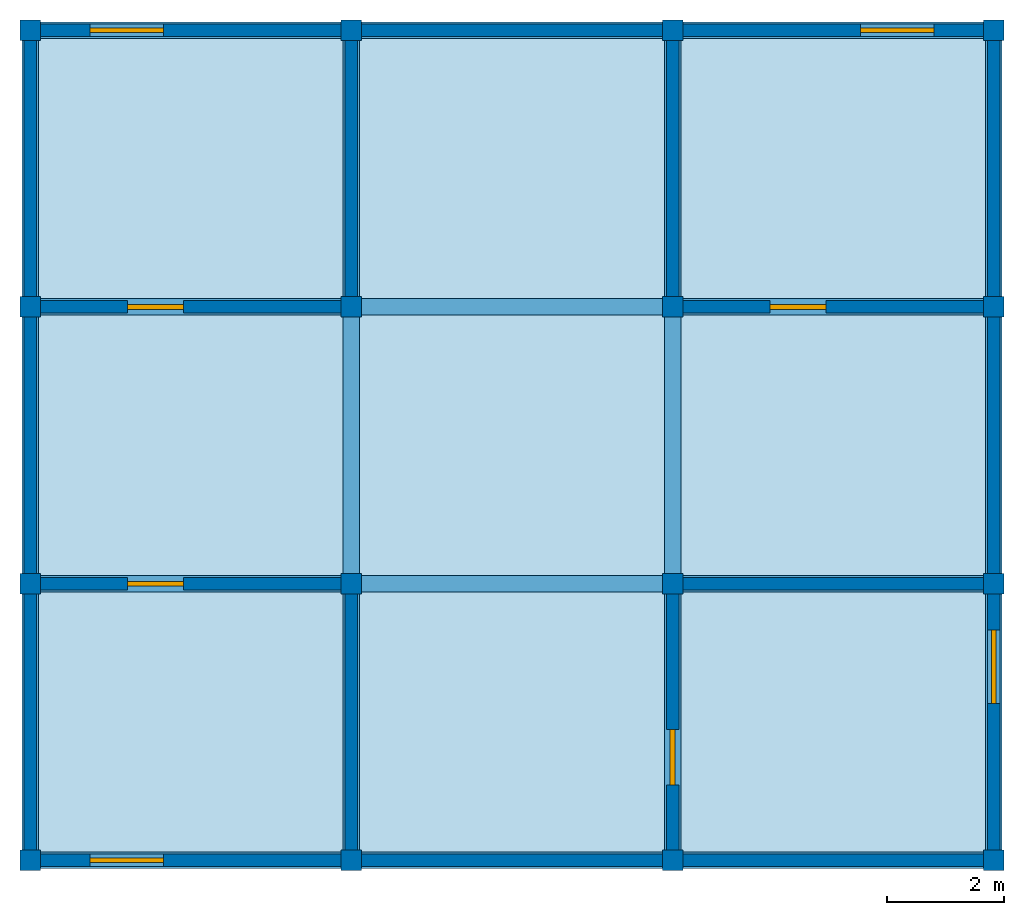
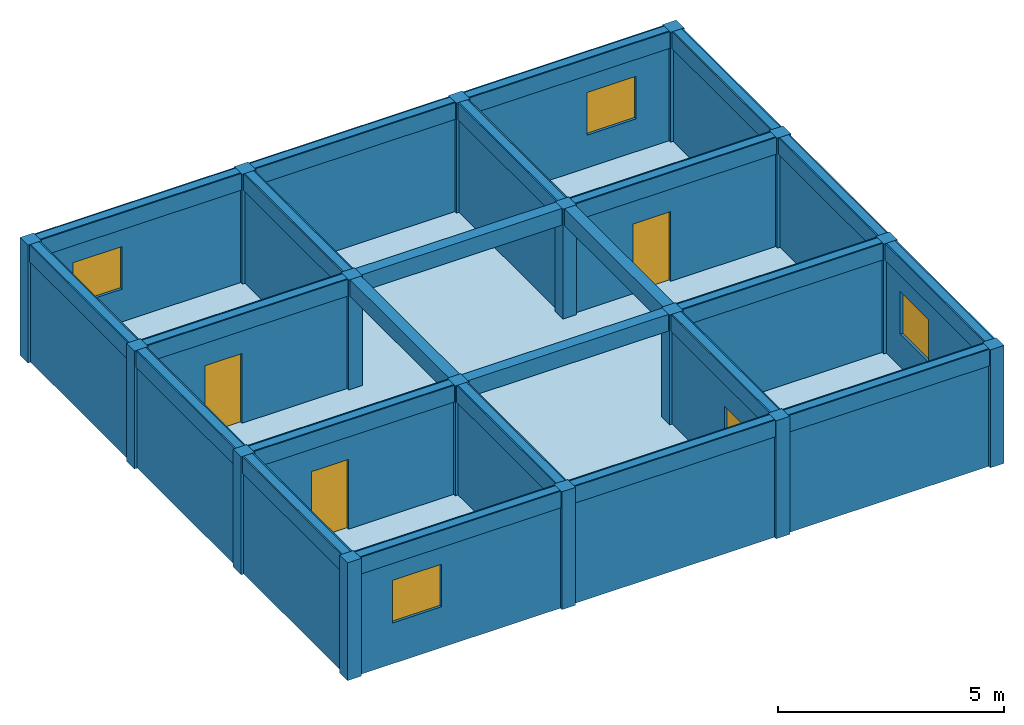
# One storey: 24 beams, 20 walls, 16 columns, 4 doors, 4 windows, 1 slab, 8 openings.
"""IFC4X3 building model written with IfcOpenShell, lengths in metres."""

from ifc_helpers import new_model, si_unit, frame, origin_with_axes, origin_2d, place, context, project, spatial, rectangle, extrude, material, element, fill, save


model = new_model("IFC4X3")

# Units and contexts
model_context = context("Model", 3, precision=1e-05, world=origin_with_axes())
ifc_project = project(units=[si_unit("LENGTHUNIT", "METRE"), si_unit("AREAUNIT", "SQUARE_METRE"), si_unit("VOLUMEUNIT", "CUBIC_METRE")], contexts=[model_context])

# Site, building, storey
site = spatial("IfcSite", under=ifc_project, Name="Antofagasta Parcel", CompositionType="ELEMENT")
building = spatial("IfcBuilding", under=site, Name="Nexo Block", CompositionType="ELEMENT")
storey = spatial("IfcBuildingStorey", under=building, Name="Level 4", CompositionType="ELEMENT", Elevation=9.54)

# Columns
ifc_material_1 = material(Name="Concrete")
column_1_placement = place(None, frame((-8.2, -7.065, 9.542), z_axis=(0.0, 0.0, 1.0), x_axis=(1.0, 0.0, 0.0)))
element("IfcColumn", 1, at=column_1_placement, inside=storey, material=ifc_material_1, Name="Column 4.1", ObjectType="Facade Column", PredefinedType="PILASTER", context=model_context, shape_type="SweptSolid", body=[
    extrude(rectangle(XDim=0.35, YDim=0.35, at=origin_2d()), origin_with_axes(), (0.0, 0.0, 1.0), 3.181),
])
column_2_placement = place(None, frame((-8.2, -2.355, 9.542), z_axis=(0.0, 0.0, 1.0), x_axis=(1.0, 0.0, 0.0)))
element("IfcColumn", 2, at=column_2_placement, inside=storey, material=ifc_material_1, Name="Column 4.2", ObjectType="Corner Column", PredefinedType="NOTDEFINED", context=model_context, shape_type="SweptSolid", body=[
    extrude(rectangle(XDim=0.35, YDim=0.35, at=origin_2d()), origin_with_axes(), (0.0, 0.0, 1.0), 3.181),
])
column_3_placement = place(None, frame((-8.2, 2.355, 9.542), z_axis=(0.0, 0.0, 1.0), x_axis=(1.0, 0.0, 0.0)))
element("IfcColumn", 3, at=column_3_placement, inside=storey, material=ifc_material_1, Name="Column 4.3", ObjectType="Structural Column", PredefinedType="COLUMN", context=model_context, shape_type="SweptSolid", body=[
    extrude(rectangle(XDim=0.35, YDim=0.35, at=origin_2d()), origin_with_axes(), (0.0, 0.0, 1.0), 3.181),
])
column_4_placement = place(None, frame((-8.2, 7.065, 9.542), z_axis=(0.0, 0.0, 1.0), x_axis=(1.0, 0.0, 0.0)))
element("IfcColumn", 4, at=column_4_placement, inside=storey, material=ifc_material_1, Name="Column 4.4", ObjectType="Facade Column", PredefinedType="PILASTER", context=model_context, shape_type="SweptSolid", body=[
    extrude(rectangle(XDim=0.35, YDim=0.35, at=origin_2d()), origin_with_axes(), (0.0, 0.0, 1.0), 3.181),
])
column_5_placement = place(None, frame((-2.733, -7.065, 9.542), z_axis=(0.0, 0.0, 1.0), x_axis=(1.0, 0.0, 0.0)))
element("IfcColumn", 5, at=column_5_placement, inside=storey, material=ifc_material_1, Name="Column 4.5", ObjectType="Facade Column", PredefinedType="COLUMN", context=model_context, shape_type="SweptSolid", body=[
    extrude(rectangle(XDim=0.35, YDim=0.35, at=origin_2d()), origin_with_axes(), (0.0, 0.0, 1.0), 3.181),
])
column_6_placement = place(None, frame((-2.733, -2.355, 9.542), z_axis=(0.0, 0.0, 1.0), x_axis=(1.0, 0.0, 0.0)))
element("IfcColumn", 6, at=column_6_placement, inside=storey, material=ifc_material_1, Name="Column 4.6", ObjectType="Structural Column", PredefinedType="COLUMN", context=model_context, shape_type="SweptSolid", body=[
    extrude(rectangle(XDim=0.35, YDim=0.35, at=origin_2d()), origin_with_axes(), (0.0, 0.0, 1.0), 3.181),
])
column_7_placement = place(None, frame((-2.733, 2.355, 9.542), z_axis=(0.0, 0.0, 1.0), x_axis=(1.0, 0.0, 0.0)))
element("IfcColumn", 7, at=column_7_placement, inside=storey, material=ifc_material_1, Name="Column 4.7", ObjectType="Corner Column", PredefinedType="COLUMN", context=model_context, shape_type="SweptSolid", body=[
    extrude(rectangle(XDim=0.35, YDim=0.35, at=origin_2d()), origin_with_axes(), (0.0, 0.0, 1.0), 3.181),
])
column_8_placement = place(None, frame((-2.733, 7.065, 9.542), z_axis=(0.0, 0.0, 1.0), x_axis=(1.0, 0.0, 0.0)))
element("IfcColumn", 8, at=column_8_placement, inside=storey, material=ifc_material_1, Name="Column 4.8", ObjectType="Facade Column", PredefinedType="NOTDEFINED", context=model_context, shape_type="SweptSolid", body=[
    extrude(rectangle(XDim=0.35, YDim=0.35, at=origin_2d()), origin_with_axes(), (0.0, 0.0, 1.0), 3.181),
])
column_9_placement = place(None, frame((2.734, -7.065, 9.542), z_axis=(0.0, 0.0, 1.0), x_axis=(1.0, 0.0, 0.0)))
element("IfcColumn", 9, at=column_9_placement, inside=storey, material=ifc_material_1, Name="Column 4.9", ObjectType="Core Column", PredefinedType="USERDEFINED", context=model_context, shape_type="SweptSolid", body=[
    extrude(rectangle(XDim=0.35, YDim=0.35, at=origin_2d()), origin_with_axes(), (0.0, 0.0, 1.0), 3.181),
])
column_10_placement = place(None, frame((2.734, -2.355, 9.542), z_axis=(0.0, 0.0, 1.0), x_axis=(1.0, 0.0, 0.0)))
element("IfcColumn", 10, at=column_10_placement, inside=storey, material=ifc_material_1, Name="Column 4.10", ObjectType="Structural Column", PredefinedType="PILASTER", context=model_context, shape_type="SweptSolid", body=[
    extrude(rectangle(XDim=0.35, YDim=0.35, at=origin_2d()), origin_with_axes(), (0.0, 0.0, 1.0), 3.181),
])
column_11_placement = place(None, frame((2.734, 2.355, 9.542), z_axis=(0.0, 0.0, 1.0), x_axis=(1.0, 0.0, 0.0)))
element("IfcColumn", 11, at=column_11_placement, inside=storey, material=ifc_material_1, Name="Column 4.11", ObjectType="Structural Column", PredefinedType="COLUMN", context=model_context, shape_type="SweptSolid", body=[
    extrude(rectangle(XDim=0.35, YDim=0.35, at=origin_2d()), origin_with_axes(), (0.0, 0.0, 1.0), 3.181),
])
column_12_placement = place(None, frame((2.734, 7.065, 9.542), z_axis=(0.0, 0.0, 1.0), x_axis=(1.0, 0.0, 0.0)))
element("IfcColumn", 12, at=column_12_placement, inside=storey, material=ifc_material_1, Name="Column 4.12", ObjectType="Facade Column", PredefinedType="COLUMN", context=model_context, shape_type="SweptSolid", body=[
    extrude(rectangle(XDim=0.35, YDim=0.35, at=origin_2d()), origin_with_axes(), (0.0, 0.0, 1.0), 3.181),
])
column_13_placement = place(None, frame((8.201, -7.065, 9.542), z_axis=(0.0, 0.0, 1.0), x_axis=(1.0, 0.0, 0.0)))
element("IfcColumn", 13, at=column_13_placement, inside=storey, material=ifc_material_1, Name="Column 4.13", ObjectType="Structural Column", PredefinedType="USERDEFINED", context=model_context, shape_type="SweptSolid", body=[
    extrude(rectangle(XDim=0.35, YDim=0.35, at=origin_2d()), origin_with_axes(), (0.0, 0.0, 1.0), 3.181),
])
column_14_placement = place(None, frame((8.201, -2.355, 9.542), z_axis=(0.0, 0.0, 1.0), x_axis=(1.0, 0.0, 0.0)))
element("IfcColumn", 14, at=column_14_placement, inside=storey, material=ifc_material_1, Name="Column 4.14", ObjectType="Core Column", PredefinedType="NOTDEFINED", context=model_context, shape_type="SweptSolid", body=[
    extrude(rectangle(XDim=0.35, YDim=0.35, at=origin_2d()), origin_with_axes(), (0.0, 0.0, 1.0), 3.181),
])
column_15_placement = place(None, frame((8.201, 2.355, 9.542), z_axis=(0.0, 0.0, 1.0), x_axis=(1.0, 0.0, 0.0)))
element("IfcColumn", 15, at=column_15_placement, inside=storey, material=ifc_material_1, Name="Column 4.15", ObjectType="Facade Column", PredefinedType="NOTDEFINED", context=model_context, shape_type="SweptSolid", body=[
    extrude(rectangle(XDim=0.35, YDim=0.35, at=origin_2d()), origin_with_axes(), (0.0, 0.0, 1.0), 3.181),
])
column_16_placement = place(None, frame((8.201, 7.065, 9.542), z_axis=(0.0, 0.0, 1.0), x_axis=(1.0, 0.0, 0.0)))
element("IfcColumn", 16, at=column_16_placement, inside=storey, material=ifc_material_1, Name="Column 4.16", ObjectType="Corner Column", PredefinedType="USERDEFINED", context=model_context, shape_type="SweptSolid", body=[
    extrude(rectangle(XDim=0.35, YDim=0.35, at=origin_2d()), origin_with_axes(), (0.0, 0.0, 1.0), 3.181),
])

# Beams
beam_1_placement = place(None, frame((-5.466, -7.065, 12.273), z_axis=(0.0, 0.0, 1.0), x_axis=(1.0, 0.0, 0.0)))
element("IfcBeam", 17, at=beam_1_placement, inside=storey, material=ifc_material_1, Name="Beam 4.1", ObjectType="Rafter Beam", PredefinedType="NOTDEFINED", context=model_context, shape_type="SweptSolid", body=[
    extrude(rectangle(XDim=5.467, YDim=0.28, at=origin_2d()), origin_with_axes(), (0.0, 0.0, 1.0), 0.45),
])
beam_2_placement = place(None, frame((0.0, -7.065, 12.273), z_axis=(0.0, 0.0, 1.0), x_axis=(1.0, 0.0, 0.0)))
element("IfcBeam", 18, at=beam_2_placement, inside=storey, material=ifc_material_1, Name="Beam 4.2", ObjectType="Ridge Beam", PredefinedType="HOLLOWCORE", context=model_context, shape_type="SweptSolid", body=[
    extrude(rectangle(XDim=5.467, YDim=0.28, at=origin_2d()), origin_with_axes(), (0.0, 0.0, 1.0), 0.45),
])
beam_3_placement = place(None, frame((5.468, -7.065, 12.273), z_axis=(0.0, 0.0, 1.0), x_axis=(1.0, 0.0, 0.0)))
element("IfcBeam", 19, at=beam_3_placement, inside=storey, material=ifc_material_1, Name="Beam 4.3", ObjectType="Rafter Beam", PredefinedType="SPANDREL", context=model_context, shape_type="SweptSolid", body=[
    extrude(rectangle(XDim=5.467, YDim=0.28, at=origin_2d()), origin_with_axes(), (0.0, 0.0, 1.0), 0.45),
])
beam_4_placement = place(None, frame((-5.466, -2.355, 12.273), z_axis=(0.0, 0.0, 1.0), x_axis=(1.0, 0.0, 0.0)))
element("IfcBeam", 20, at=beam_4_placement, inside=storey, material=ifc_material_1, Name="Beam 4.4", ObjectType="Rafter Beam", PredefinedType="T_BEAM", context=model_context, shape_type="SweptSolid", body=[
    extrude(rectangle(XDim=5.467, YDim=0.28, at=origin_2d()), origin_with_axes(), (0.0, 0.0, 1.0), 0.45),
])
beam_5_placement = place(None, frame((0.0, -2.355, 12.273), z_axis=(0.0, 0.0, 1.0), x_axis=(1.0, 0.0, 0.0)))
element("IfcBeam", 21, at=beam_5_placement, inside=storey, material=ifc_material_1, Name="Beam 4.5", ObjectType="Transfer Beam", PredefinedType="BEAM", context=model_context, shape_type="SweptSolid", body=[
    extrude(rectangle(XDim=5.467, YDim=0.28, at=origin_2d()), origin_with_axes(), (0.0, 0.0, 1.0), 0.45),
])
beam_6_placement = place(None, frame((5.468, -2.355, 12.273), z_axis=(0.0, 0.0, 1.0), x_axis=(1.0, 0.0, 0.0)))
element("IfcBeam", 22, at=beam_6_placement, inside=storey, material=ifc_material_1, Name="Beam 4.6", ObjectType="Transfer Beam", PredefinedType="JOIST", context=model_context, shape_type="SweptSolid", body=[
    extrude(rectangle(XDim=5.467, YDim=0.28, at=origin_2d()), origin_with_axes(), (0.0, 0.0, 1.0), 0.45),
])
beam_7_placement = place(None, frame((-5.466, 2.355, 12.273), z_axis=(0.0, 0.0, 1.0), x_axis=(1.0, 0.0, 0.0)))
element("IfcBeam", 23, at=beam_7_placement, inside=storey, material=ifc_material_1, Name="Beam 4.7", ObjectType="Secondary Beam", PredefinedType="SPANDREL", context=model_context, shape_type="SweptSolid", body=[
    extrude(rectangle(XDim=5.467, YDim=0.28, at=origin_2d()), origin_with_axes(), (0.0, 0.0, 1.0), 0.45),
])
beam_8_placement = place(None, frame((0.0, 2.355, 12.273), z_axis=(0.0, 0.0, 1.0), x_axis=(1.0, 0.0, 0.0)))
element("IfcBeam", 24, at=beam_8_placement, inside=storey, material=ifc_material_1, Name="Beam 4.8", ObjectType="Rafter Beam", PredefinedType="T_BEAM", context=model_context, shape_type="SweptSolid", body=[
    extrude(rectangle(XDim=5.467, YDim=0.28, at=origin_2d()), origin_with_axes(), (0.0, 0.0, 1.0), 0.45),
])
beam_9_placement = place(None, frame((5.468, 2.355, 12.273), z_axis=(0.0, 0.0, 1.0), x_axis=(1.0, 0.0, 0.0)))
element("IfcBeam", 25, at=beam_9_placement, inside=storey, material=ifc_material_1, Name="Beam 4.9", ObjectType="Transfer Beam", PredefinedType="HOLLOWCORE", context=model_context, shape_type="SweptSolid", body=[
    extrude(rectangle(XDim=5.467, YDim=0.28, at=origin_2d()), origin_with_axes(), (0.0, 0.0, 1.0), 0.45),
])
beam_10_placement = place(None, frame((-5.466, 7.065, 12.273), z_axis=(0.0, 0.0, 1.0), x_axis=(1.0, 0.0, 0.0)))
element("IfcBeam", 26, at=beam_10_placement, inside=storey, material=ifc_material_1, Name="Beam 4.10", ObjectType="Secondary Beam", PredefinedType="LINTEL", context=model_context, shape_type="SweptSolid", body=[
    extrude(rectangle(XDim=5.467, YDim=0.28, at=origin_2d()), origin_with_axes(), (0.0, 0.0, 1.0), 0.45),
])
beam_11_placement = place(None, frame((0.0, 7.065, 12.273), z_axis=(0.0, 0.0, 1.0), x_axis=(1.0, 0.0, 0.0)))
element("IfcBeam", 27, at=beam_11_placement, inside=storey, material=ifc_material_1, Name="Beam 4.11", ObjectType="Transfer Beam", PredefinedType="LINTEL", context=model_context, shape_type="SweptSolid", body=[
    extrude(rectangle(XDim=5.467, YDim=0.28, at=origin_2d()), origin_with_axes(), (0.0, 0.0, 1.0), 0.45),
])
beam_12_placement = place(None, frame((5.468, 7.065, 12.273), z_axis=(0.0, 0.0, 1.0), x_axis=(1.0, 0.0, 0.0)))
element("IfcBeam", 28, at=beam_12_placement, inside=storey, material=ifc_material_1, Name="Beam 4.12", ObjectType="Secondary Beam", PredefinedType="HOLLOWCORE", context=model_context, shape_type="SweptSolid", body=[
    extrude(rectangle(XDim=5.467, YDim=0.28, at=origin_2d()), origin_with_axes(), (0.0, 0.0, 1.0), 0.45),
])
beam_13_placement = place(None, frame((-8.2, -4.71, 12.273), z_axis=(0.0, 0.0, 1.0), x_axis=(0.0, 1.0, 0.0)))
element("IfcBeam", 29, at=beam_13_placement, inside=storey, material=ifc_material_1, Name="Beam 4.13", ObjectType="Transfer Beam", PredefinedType="SPANDREL", context=model_context, shape_type="SweptSolid", body=[
    extrude(rectangle(XDim=4.71, YDim=0.28, at=origin_2d()), origin_with_axes(), (0.0, 0.0, 1.0), 0.45),
])
beam_14_placement = place(None, frame((-8.2, 0.0, 12.273), z_axis=(0.0, 0.0, 1.0), x_axis=(0.0, 1.0, 0.0)))
element("IfcBeam", 30, at=beam_14_placement, inside=storey, material=ifc_material_1, Name="Beam 4.14", ObjectType="Secondary Beam", PredefinedType="HOLLOWCORE", context=model_context, shape_type="SweptSolid", body=[
    extrude(rectangle(XDim=4.71, YDim=0.28, at=origin_2d()), origin_with_axes(), (0.0, 0.0, 1.0), 0.45),
])
beam_15_placement = place(None, frame((-8.2, 4.71, 12.273), z_axis=(0.0, 0.0, 1.0), x_axis=(0.0, 1.0, 0.0)))
element("IfcBeam", 31, at=beam_15_placement, inside=storey, material=ifc_material_1, Name="Beam 4.15", ObjectType="Rafter Beam", PredefinedType="HOLLOWCORE", context=model_context, shape_type="SweptSolid", body=[
    extrude(rectangle(XDim=4.71, YDim=0.28, at=origin_2d()), origin_with_axes(), (0.0, 0.0, 1.0), 0.45),
])
beam_16_placement = place(None, frame((-2.733, -4.71, 12.273), z_axis=(0.0, 0.0, 1.0), x_axis=(0.0, 1.0, 0.0)))
element("IfcBeam", 32, at=beam_16_placement, inside=storey, material=ifc_material_1, Name="Beam 4.16", ObjectType="Primary Beam", PredefinedType="LINTEL", context=model_context, shape_type="SweptSolid", body=[
    extrude(rectangle(XDim=4.71, YDim=0.28, at=origin_2d()), origin_with_axes(), (0.0, 0.0, 1.0), 0.45),
])
beam_17_placement = place(None, frame((-2.733, 0.0, 12.273), z_axis=(0.0, 0.0, 1.0), x_axis=(0.0, 1.0, 0.0)))
element("IfcBeam", 33, at=beam_17_placement, inside=storey, material=ifc_material_1, Name="Beam 4.17", ObjectType="Ridge Beam", PredefinedType="USERDEFINED", context=model_context, shape_type="SweptSolid", body=[
    extrude(rectangle(XDim=4.71, YDim=0.28, at=origin_2d()), origin_with_axes(), (0.0, 0.0, 1.0), 0.45),
])
beam_18_placement = place(None, frame((-2.733, 4.71, 12.273), z_axis=(0.0, 0.0, 1.0), x_axis=(0.0, 1.0, 0.0)))
element("IfcBeam", 34, at=beam_18_placement, inside=storey, material=ifc_material_1, Name="Beam 4.18", ObjectType="Primary Beam", PredefinedType="USERDEFINED", context=model_context, shape_type="SweptSolid", body=[
    extrude(rectangle(XDim=4.71, YDim=0.28, at=origin_2d()), origin_with_axes(), (0.0, 0.0, 1.0), 0.45),
])
beam_19_placement = place(None, frame((2.734, -4.71, 12.273), z_axis=(0.0, 0.0, 1.0), x_axis=(0.0, 1.0, 0.0)))
element("IfcBeam", 35, at=beam_19_placement, inside=storey, material=ifc_material_1, Name="Beam 4.19", ObjectType="Primary Beam", PredefinedType="JOIST", context=model_context, shape_type="SweptSolid", body=[
    extrude(rectangle(XDim=4.71, YDim=0.28, at=origin_2d()), origin_with_axes(), (0.0, 0.0, 1.0), 0.45),
])
beam_20_placement = place(None, frame((2.734, 0.0, 12.273), z_axis=(0.0, 0.0, 1.0), x_axis=(0.0, 1.0, 0.0)))
element("IfcBeam", 36, at=beam_20_placement, inside=storey, material=ifc_material_1, Name="Beam 4.20", ObjectType="Primary Beam", PredefinedType="SPANDREL", context=model_context, shape_type="SweptSolid", body=[
    extrude(rectangle(XDim=4.71, YDim=0.28, at=origin_2d()), origin_with_axes(), (0.0, 0.0, 1.0), 0.45),
])
beam_21_placement = place(None, frame((2.734, 4.71, 12.273), z_axis=(0.0, 0.0, 1.0), x_axis=(0.0, 1.0, 0.0)))
element("IfcBeam", 37, at=beam_21_placement, inside=storey, material=ifc_material_1, Name="Beam 4.21", ObjectType="Ridge Beam", PredefinedType="SPANDREL", context=model_context, shape_type="SweptSolid", body=[
    extrude(rectangle(XDim=4.71, YDim=0.28, at=origin_2d()), origin_with_axes(), (0.0, 0.0, 1.0), 0.45),
])
beam_22_placement = place(None, frame((8.201, -4.71, 12.273), z_axis=(0.0, 0.0, 1.0), x_axis=(0.0, 1.0, 0.0)))
element("IfcBeam", 38, at=beam_22_placement, inside=storey, material=ifc_material_1, Name="Beam 4.22", ObjectType="Rafter Beam", PredefinedType="NOTDEFINED", context=model_context, shape_type="SweptSolid", body=[
    extrude(rectangle(XDim=4.71, YDim=0.28, at=origin_2d()), origin_with_axes(), (0.0, 0.0, 1.0), 0.45),
])
beam_23_placement = place(None, frame((8.201, 0.0, 12.273), z_axis=(0.0, 0.0, 1.0), x_axis=(0.0, 1.0, 0.0)))
element("IfcBeam", 39, at=beam_23_placement, inside=storey, material=ifc_material_1, Name="Beam 4.23", ObjectType="Transfer Beam", PredefinedType="T_BEAM", context=model_context, shape_type="SweptSolid", body=[
    extrude(rectangle(XDim=4.71, YDim=0.28, at=origin_2d()), origin_with_axes(), (0.0, 0.0, 1.0), 0.45),
])
beam_24_placement = place(None, frame((8.201, 4.71, 12.273), z_axis=(0.0, 0.0, 1.0), x_axis=(0.0, 1.0, 0.0)))
element("IfcBeam", 40, at=beam_24_placement, inside=storey, material=ifc_material_1, Name="Beam 4.24", ObjectType="Transfer Beam", PredefinedType="BEAM", context=model_context, shape_type="SweptSolid", body=[
    extrude(rectangle(XDim=4.71, YDim=0.28, at=origin_2d()), origin_with_axes(), (0.0, 0.0, 1.0), 0.45),
])

# Slab
slab_placement = place(None, frame((0.0, 0.0, 9.54), z_axis=(0.0, 0.0, 1.0), x_axis=(1.0, 0.0, 0.0)))
element("IfcSlab", 41, at=slab_placement, inside=storey, material=ifc_material_1, Name="Slab 4", ObjectType="Floor Slab", PredefinedType="FLOOR", context=model_context, shape_type="SweptSolid", body=[
    extrude(rectangle(XDim=16.4, YDim=14.13, at=origin_2d()), origin_with_axes(), (0.0, 0.0, 1.0), 0.22),
])

# Wall, opening, door
ifc_material_2 = material(Name="CLT")
wall_1_placement = place(None, frame((-5.466, -2.355, 9.542), z_axis=(0.0, 0.0, 1.0), x_axis=(1.0, 0.0, 0.0)))
wall_1 = element("IfcWall", 42, at=wall_1_placement, inside=storey, material=ifc_material_2, Name="Wall 4.1", ObjectType="Corridor Partition", PredefinedType="PLUMBINGWALL", context=model_context, shape_type="SweptSolid", body=[
    extrude(rectangle(XDim=5.467, YDim=0.214108, at=origin_2d()), origin_with_axes(), (0.0, 0.0, 1.0), 3.181),
])
opening_1_placement = place(None, frame((-6.066, -2.355, 9.542), z_axis=(0.0, 0.0, 1.0), x_axis=(1.0, 0.0, 0.0)))
opening_1 = element("IfcOpeningElement", 43, at=opening_1_placement, cuts=wall_1, Name="Door opening 4.1", ObjectType="Door Opening", PredefinedType="OPENING", context=model_context, shape_type="SweptSolid", body=[
    extrude(rectangle(XDim=0.95, YDim=0.294108, at=origin_2d()), origin_with_axes(), (0.0, 0.0, 1.0), 2.1),
])
door_1_placement = place(None, frame((-6.066, -2.355, 9.542), z_axis=(0.0, 0.0, 1.0), x_axis=(1.0, 0.0, 0.0)))
door_1 = element("IfcDoor", 44, at=door_1_placement, inside=storey, Name="Door 4.1", ObjectType="Fire Door", OverallHeight=2.1, OverallWidth=0.95, context=model_context, shape_type="SweptSolid", body=[
    extrude(rectangle(XDim=0.95, YDim=0.08, at=origin_2d()), origin_with_axes(), (0.0, 0.0, 1.0), 2.1),
])
fill(opening_1, door_1)

# Wall
wall_2_placement = place(None, frame((-2.7325, -4.71, 9.542), z_axis=(0.0, 0.0, 1.0), x_axis=(0.0, 1.0, 0.0)))
element("IfcWall", 45, at=wall_2_placement, inside=storey, material=ifc_material_1, Name="Wall 4.2", ObjectType="Corridor Partition", PredefinedType="PARTITIONING", context=model_context, shape_type="SweptSolid", body=[
    extrude(rectangle(XDim=4.71, YDim=0.214108, at=origin_2d()), origin_with_axes(), (0.0, 0.0, 1.0), 3.181),
])

# Wall, opening, window
wall_3_placement = place(None, frame((-5.466, -7.065, 9.542), z_axis=(0.0, 0.0, 1.0), x_axis=(1.0, 0.0, 0.0)))
wall_3 = element("IfcWall", 46, at=wall_3_placement, inside=storey, material=ifc_material_2, Name="Wall 4.3", ObjectType="Exterior Wall", PredefinedType="NOTDEFINED", context=model_context, shape_type="SweptSolid", body=[
    extrude(rectangle(XDim=5.467, YDim=0.214108, at=origin_2d()), origin_with_axes(), (0.0, 0.0, 1.0), 3.181),
])
opening_2_placement = place(None, frame((-6.559, -7.065, 10.642), z_axis=(0.0, 0.0, 1.0), x_axis=(1.0, 0.0, 0.0)))
opening_2 = element("IfcOpeningElement", 47, at=opening_2_placement, cuts=wall_3, Name="Window opening 4.2", ObjectType="Window Opening", PredefinedType="OPENING", context=model_context, shape_type="SweptSolid", body=[
    extrude(rectangle(XDim=1.25, YDim=0.294108, at=origin_2d()), origin_with_axes(), (0.0, 0.0, 1.0), 1.15),
])
window_1_placement = place(None, frame((-6.559, -7.065, 10.642), z_axis=(0.0, 0.0, 1.0), x_axis=(1.0, 0.0, 0.0)))
window_1 = element("IfcWindow", 48, at=window_1_placement, inside=storey, Name="Window 4.2", ObjectType="Sliding Window", OverallHeight=1.15, OverallWidth=1.25, context=model_context, shape_type="SweptSolid", body=[
    extrude(rectangle(XDim=1.25, YDim=0.08, at=origin_2d()), origin_with_axes(), (0.0, 0.0, 1.0), 1.15),
])
fill(opening_2, window_1)

# Wall
ifc_material_3 = material(Name="Brick")
wall_4_placement = place(None, frame((-8.1995, -4.71, 9.542), z_axis=(0.0, 0.0, 1.0), x_axis=(0.0, 1.0, 0.0)))
element("IfcWall", 49, at=wall_4_placement, inside=storey, material=ifc_material_3, Name="Wall 4.4", ObjectType="Exterior Wall", PredefinedType="ELEMENTEDWALL", context=model_context, shape_type="SweptSolid", body=[
    extrude(rectangle(XDim=4.71, YDim=0.214108, at=origin_2d()), origin_with_axes(), (0.0, 0.0, 1.0), 3.181),
])

# Wall, opening, door
wall_5_placement = place(None, frame((2.7335, -4.71, 9.542), z_axis=(0.0, 0.0, 1.0), x_axis=(0.0, 1.0, 0.0)))
wall_5 = element("IfcWall", 50, at=wall_5_placement, inside=storey, material=ifc_material_3, Name="Wall 4.5", ObjectType="Corridor Partition", PredefinedType="SOLIDWALL", context=model_context, shape_type="SweptSolid", body=[
    extrude(rectangle(XDim=4.71, YDim=0.214108, at=origin_2d()), origin_with_axes(), (0.0, 0.0, 1.0), 3.181),
])
opening_3_placement = place(None, frame((2.733, -5.31, 9.542), z_axis=(0.0, 0.0, 1.0), x_axis=(0.0, 1.0, 0.0)))
opening_3 = element("IfcOpeningElement", 51, at=opening_3_placement, cuts=wall_5, Name="Door opening 4.3", ObjectType="Door Opening", PredefinedType="OPENING", context=model_context, shape_type="SweptSolid", body=[
    extrude(rectangle(XDim=0.95, YDim=0.294108, at=origin_2d()), origin_with_axes(), (0.0, 0.0, 1.0), 2.1),
])
door_2_placement = place(None, frame((2.733, -5.31, 9.542), z_axis=(0.0, 0.0, 1.0), x_axis=(0.0, 1.0, 0.0)))
door_2 = element("IfcDoor", 52, at=door_2_placement, inside=storey, Name="Door 4.3", ObjectType="Interior Door", OverallHeight=2.1, OverallWidth=0.95, context=model_context, shape_type="SweptSolid", body=[
    extrude(rectangle(XDim=0.95, YDim=0.08, at=origin_2d()), origin_with_axes(), (0.0, 0.0, 1.0), 2.1),
])
fill(opening_3, door_2)

# Walls
wall_6_placement = place(None, frame((0.0, -7.065, 9.542), z_axis=(0.0, 0.0, 1.0), x_axis=(1.0, 0.0, 0.0)))
element("IfcWall", 53, at=wall_6_placement, inside=storey, material=ifc_material_1, Name="Wall 4.6", ObjectType="Exterior Wall", PredefinedType="SOLIDWALL", context=model_context, shape_type="SweptSolid", body=[
    extrude(rectangle(XDim=5.467, YDim=0.214108, at=origin_2d()), origin_with_axes(), (0.0, 0.0, 1.0), 3.181),
])
wall_7_placement = place(None, frame((5.467, -2.355, 9.542), z_axis=(0.0, 0.0, 1.0), x_axis=(1.0, 0.0, 0.0)))
element("IfcWall", 54, at=wall_7_placement, inside=storey, material=ifc_material_1, Name="Wall 4.7", ObjectType="Corridor Partition", PredefinedType="PLUMBINGWALL", context=model_context, shape_type="SweptSolid", body=[
    extrude(rectangle(XDim=5.467, YDim=0.214108, at=origin_2d()), origin_with_axes(), (0.0, 0.0, 1.0), 3.181),
])

# Wall, opening, window
wall_8_placement = place(None, frame((8.2005, -4.71, 9.542), z_axis=(0.0, 0.0, 1.0), x_axis=(0.0, 1.0, 0.0)))
wall_8 = element("IfcWall", 55, at=wall_8_placement, inside=storey, material=ifc_material_3, Name="Wall 4.8", ObjectType="Exterior Wall", PredefinedType="SOLIDWALL", context=model_context, shape_type="SweptSolid", body=[
    extrude(rectangle(XDim=4.71, YDim=0.214108, at=origin_2d()), origin_with_axes(), (0.0, 0.0, 1.0), 3.181),
])
opening_4_placement = place(None, frame((8.2, -3.768, 10.642), z_axis=(0.0, 0.0, 1.0), x_axis=(0.0, 1.0, 0.0)))
opening_4 = element("IfcOpeningElement", 56, at=opening_4_placement, cuts=wall_8, Name="Window opening 4.4", ObjectType="Window Opening", PredefinedType="OPENING", context=model_context, shape_type="SweptSolid", body=[
    extrude(rectangle(XDim=1.25, YDim=0.294108, at=origin_2d()), origin_with_axes(), (0.0, 0.0, 1.0), 1.15),
])
window_2_placement = place(None, frame((8.2, -3.768, 10.642), z_axis=(0.0, 0.0, 1.0), x_axis=(0.0, 1.0, 0.0)))
window_2 = element("IfcWindow", 57, at=window_2_placement, inside=storey, Name="Window 4.4", ObjectType="Louvre Window", OverallHeight=1.15, OverallWidth=1.25, context=model_context, shape_type="SweptSolid", body=[
    extrude(rectangle(XDim=1.25, YDim=0.08, at=origin_2d()), origin_with_axes(), (0.0, 0.0, 1.0), 1.15),
])
fill(opening_4, window_2)

# Wall
ifc_material_4 = material(Name="Gypsum")
wall_9_placement = place(None, frame((5.467, -7.065, 9.542), z_axis=(0.0, 0.0, 1.0), x_axis=(1.0, 0.0, 0.0)))
element("IfcWall", 58, at=wall_9_placement, inside=storey, material=ifc_material_4, Name="Wall 4.9", ObjectType="Exterior Wall", PredefinedType="SHEAR", context=model_context, shape_type="SweptSolid", body=[
    extrude(rectangle(XDim=5.467, YDim=0.214108, at=origin_2d()), origin_with_axes(), (0.0, 0.0, 1.0), 3.181),
])

# Wall, opening, door
wall_10_placement = place(None, frame((-5.466, 2.355, 9.542), z_axis=(0.0, 0.0, 1.0), x_axis=(1.0, 0.0, 0.0)))
wall_10 = element("IfcWall", 59, at=wall_10_placement, inside=storey, material=ifc_material_4, Name="Wall 4.10", ObjectType="Corridor Partition", PredefinedType="POLYGONAL", context=model_context, shape_type="SweptSolid", body=[
    extrude(rectangle(XDim=5.467, YDim=0.214108, at=origin_2d()), origin_with_axes(), (0.0, 0.0, 1.0), 3.181),
])
opening_5_placement = place(None, frame((-6.066, 2.355, 9.542), z_axis=(0.0, 0.0, 1.0), x_axis=(1.0, 0.0, 0.0)))
opening_5 = element("IfcOpeningElement", 60, at=opening_5_placement, cuts=wall_10, Name="Door opening 4.5", ObjectType="Door Opening", PredefinedType="OPENING", context=model_context, shape_type="SweptSolid", body=[
    extrude(rectangle(XDim=0.95, YDim=0.294108, at=origin_2d()), origin_with_axes(), (0.0, 0.0, 1.0), 2.1),
])
door_3_placement = place(None, frame((-6.066, 2.355, 9.542), z_axis=(0.0, 0.0, 1.0), x_axis=(1.0, 0.0, 0.0)))
door_3 = element("IfcDoor", 61, at=door_3_placement, inside=storey, Name="Door 4.5", ObjectType="Entry Door", OverallHeight=2.1, OverallWidth=0.95, context=model_context, shape_type="SweptSolid", body=[
    extrude(rectangle(XDim=0.95, YDim=0.08, at=origin_2d()), origin_with_axes(), (0.0, 0.0, 1.0), 2.1),
])
fill(opening_5, door_3)

# Wall
wall_11_placement = place(None, frame((-8.1995, 0.0, 9.542), z_axis=(0.0, 0.0, 1.0), x_axis=(0.0, 1.0, 0.0)))
element("IfcWall", 62, at=wall_11_placement, inside=storey, material=ifc_material_2, Name="Wall 4.11", ObjectType="Exterior Wall", PredefinedType="MOVABLE", context=model_context, shape_type="SweptSolid", body=[
    extrude(rectangle(XDim=4.71, YDim=0.214108, at=origin_2d()), origin_with_axes(), (0.0, 0.0, 1.0), 3.181),
])

# Wall, opening, door
wall_12_placement = place(None, frame((5.467, 2.355, 9.542), z_axis=(0.0, 0.0, 1.0), x_axis=(1.0, 0.0, 0.0)))
wall_12 = element("IfcWall", 63, at=wall_12_placement, inside=storey, material=ifc_material_1, Name="Wall 4.12", ObjectType="Corridor Partition", PredefinedType="SHEAR", context=model_context, shape_type="SweptSolid", body=[
    extrude(rectangle(XDim=5.467, YDim=0.214108, at=origin_2d()), origin_with_axes(), (0.0, 0.0, 1.0), 3.181),
])
opening_6_placement = place(None, frame((4.867, 2.355, 9.542), z_axis=(0.0, 0.0, 1.0), x_axis=(1.0, 0.0, 0.0)))
opening_6 = element("IfcOpeningElement", 64, at=opening_6_placement, cuts=wall_12, Name="Door opening 4.7", ObjectType="Door Opening", PredefinedType="OPENING", context=model_context, shape_type="SweptSolid", body=[
    extrude(rectangle(XDim=0.95, YDim=0.294108, at=origin_2d()), origin_with_axes(), (0.0, 0.0, 1.0), 2.1),
])
door_4_placement = place(None, frame((4.867, 2.355, 9.542), z_axis=(0.0, 0.0, 1.0), x_axis=(1.0, 0.0, 0.0)))
door_4 = element("IfcDoor", 65, at=door_4_placement, inside=storey, Name="Door 4.7", ObjectType="Interior Door", OverallHeight=2.1, OverallWidth=0.95, context=model_context, shape_type="SweptSolid", body=[
    extrude(rectangle(XDim=0.95, YDim=0.08, at=origin_2d()), origin_with_axes(), (0.0, 0.0, 1.0), 2.1),
])
fill(opening_6, door_4)

# Wall
wall_13_placement = place(None, frame((8.2005, 0.0, 9.542), z_axis=(0.0, 0.0, 1.0), x_axis=(0.0, 1.0, 0.0)))
element("IfcWall", 66, at=wall_13_placement, inside=storey, material=ifc_material_3, Name="Wall 4.13", ObjectType="Exterior Wall", PredefinedType="PARAPET", context=model_context, shape_type="SweptSolid", body=[
    extrude(rectangle(XDim=4.71, YDim=0.214108, at=origin_2d()), origin_with_axes(), (0.0, 0.0, 1.0), 3.181),
])

# Wall, opening, window
wall_14_placement = place(None, frame((-5.466, 7.065, 9.542), z_axis=(0.0, 0.0, 1.0), x_axis=(1.0, 0.0, 0.0)))
wall_14 = element("IfcWall", 67, at=wall_14_placement, inside=storey, material=ifc_material_3, Name="Wall 4.14", ObjectType="Exterior Wall", PredefinedType="USERDEFINED", context=model_context, shape_type="SweptSolid", body=[
    extrude(rectangle(XDim=5.467, YDim=0.214108, at=origin_2d()), origin_with_axes(), (0.0, 0.0, 1.0), 3.181),
])
opening_7_placement = place(None, frame((-6.559, 7.065, 10.642), z_axis=(0.0, 0.0, 1.0), x_axis=(1.0, 0.0, 0.0)))
opening_7 = element("IfcOpeningElement", 68, at=opening_7_placement, cuts=wall_14, Name="Window opening 4.6", ObjectType="Window Opening", PredefinedType="OPENING", context=model_context, shape_type="SweptSolid", body=[
    extrude(rectangle(XDim=1.25, YDim=0.294108, at=origin_2d()), origin_with_axes(), (0.0, 0.0, 1.0), 1.15),
])
window_3_placement = place(None, frame((-6.559, 7.065, 10.642), z_axis=(0.0, 0.0, 1.0), x_axis=(1.0, 0.0, 0.0)))
window_3 = element("IfcWindow", 69, at=window_3_placement, inside=storey, Name="Window 4.6", ObjectType="Louvre Window", OverallHeight=1.15, OverallWidth=1.25, context=model_context, shape_type="SweptSolid", body=[
    extrude(rectangle(XDim=1.25, YDim=0.08, at=origin_2d()), origin_with_axes(), (0.0, 0.0, 1.0), 1.15),
])
fill(opening_7, window_3)

# Walls
wall_15_placement = place(None, frame((-2.7325, 4.71, 9.542), z_axis=(0.0, 0.0, 1.0), x_axis=(0.0, 1.0, 0.0)))
element("IfcWall", 70, at=wall_15_placement, inside=storey, material=ifc_material_1, Name="Wall 4.15", ObjectType="Corridor Partition", PredefinedType="MOVABLE", context=model_context, shape_type="SweptSolid", body=[
    extrude(rectangle(XDim=4.71, YDim=0.214108, at=origin_2d()), origin_with_axes(), (0.0, 0.0, 1.0), 3.181),
])
wall_16_placement = place(None, frame((-8.1995, 4.71, 9.542), z_axis=(0.0, 0.0, 1.0), x_axis=(0.0, 1.0, 0.0)))
element("IfcWall", 71, at=wall_16_placement, inside=storey, material=ifc_material_4, Name="Wall 4.16", ObjectType="Exterior Wall", PredefinedType="NOTDEFINED", context=model_context, shape_type="SweptSolid", body=[
    extrude(rectangle(XDim=4.71, YDim=0.214108, at=origin_2d()), origin_with_axes(), (0.0, 0.0, 1.0), 3.181),
])
wall_17_placement = place(None, frame((0.0, 7.065, 9.542), z_axis=(0.0, 0.0, 1.0), x_axis=(1.0, 0.0, 0.0)))
element("IfcWall", 72, at=wall_17_placement, inside=storey, material=ifc_material_4, Name="Wall 4.17", ObjectType="Exterior Wall", PredefinedType="USERDEFINED", context=model_context, shape_type="SweptSolid", body=[
    extrude(rectangle(XDim=5.467, YDim=0.214108, at=origin_2d()), origin_with_axes(), (0.0, 0.0, 1.0), 3.181),
])
wall_18_placement = place(None, frame((2.7335, 4.71, 9.542), z_axis=(0.0, 0.0, 1.0), x_axis=(0.0, 1.0, 0.0)))
element("IfcWall", 73, at=wall_18_placement, inside=storey, material=ifc_material_3, Name="Wall 4.18", ObjectType="Corridor Partition", PredefinedType="USERDEFINED", context=model_context, shape_type="SweptSolid", body=[
    extrude(rectangle(XDim=4.71, YDim=0.214108, at=origin_2d()), origin_with_axes(), (0.0, 0.0, 1.0), 3.181),
])

# Wall, opening, window
wall_19_placement = place(None, frame((5.467, 7.065, 9.542), z_axis=(0.0, 0.0, 1.0), x_axis=(1.0, 0.0, 0.0)))
wall_19 = element("IfcWall", 74, at=wall_19_placement, inside=storey, material=ifc_material_1, Name="Wall 4.19", ObjectType="Exterior Wall", PredefinedType="STANDARD", context=model_context, shape_type="SweptSolid", body=[
    extrude(rectangle(XDim=5.467, YDim=0.214108, at=origin_2d()), origin_with_axes(), (0.0, 0.0, 1.0), 3.181),
])
opening_8_placement = place(None, frame((6.56, 7.065, 10.642), z_axis=(0.0, 0.0, 1.0), x_axis=(1.0, 0.0, 0.0)))
opening_8 = element("IfcOpeningElement", 75, at=opening_8_placement, cuts=wall_19, Name="Window opening 4.8", ObjectType="Window Opening", PredefinedType="OPENING", context=model_context, shape_type="SweptSolid", body=[
    extrude(rectangle(XDim=1.25, YDim=0.294108, at=origin_2d()), origin_with_axes(), (0.0, 0.0, 1.0), 1.15),
])
window_4_placement = place(None, frame((6.56, 7.065, 10.642), z_axis=(0.0, 0.0, 1.0), x_axis=(1.0, 0.0, 0.0)))
window_4 = element("IfcWindow", 76, at=window_4_placement, inside=storey, Name="Window 4.8", ObjectType="Louvre Window", OverallHeight=1.15, OverallWidth=1.25, context=model_context, shape_type="SweptSolid", body=[
    extrude(rectangle(XDim=1.25, YDim=0.08, at=origin_2d()), origin_with_axes(), (0.0, 0.0, 1.0), 1.15),
])
fill(opening_8, window_4)

# Wall
wall_20_placement = place(None, frame((8.2005, 4.71, 9.542), z_axis=(0.0, 0.0, 1.0), x_axis=(0.0, 1.0, 0.0)))
element("IfcWall", 77, at=wall_20_placement, inside=storey, material=ifc_material_4, Name="Wall 4.20", ObjectType="Exterior Wall", PredefinedType="PLUMBINGWALL", context=model_context, shape_type="SweptSolid", body=[
    extrude(rectangle(XDim=4.71, YDim=0.214108, at=origin_2d()), origin_with_axes(), (0.0, 0.0, 1.0), 3.181),
])

save(model, "model.ifc")
